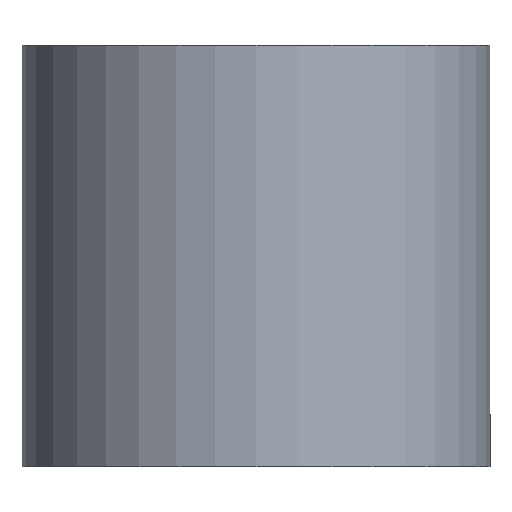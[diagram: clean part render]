
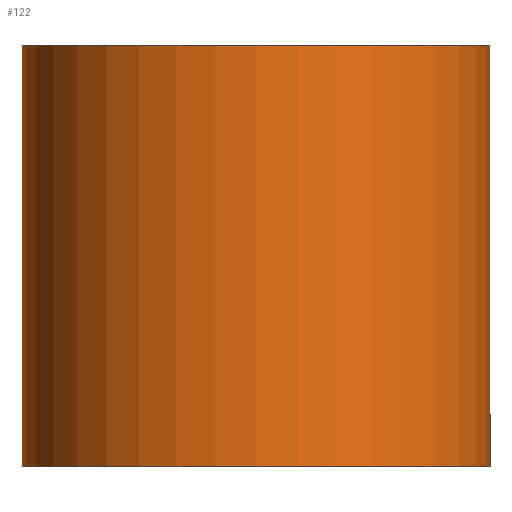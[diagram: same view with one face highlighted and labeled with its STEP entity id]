
A CAD part, front view. The second image highlights one B-rep face of the part: STEP entity #122.
In plain terms, the highlighted cylindrical face has radius 10 mm (diameter 20 mm), a full revolution.
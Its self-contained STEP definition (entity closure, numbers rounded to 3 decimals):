
#28=LINE('',#261,#32);
#32=VECTOR('',#221,10.);
#36=CYLINDRICAL_SURFACE('',#188,10.);
#46=FACE_OUTER_BOUND('',#56,.T.);
#56=EDGE_LOOP('',(#99,#100,#101,#102));
#63=CIRCLE('',#182,10.);
#66=CIRCLE('',#187,10.);
#71=VERTEX_POINT('',#249);
#74=VERTEX_POINT('',#258);
#79=EDGE_CURVE('',#71,#71,#63,.T.);
#83=EDGE_CURVE('',#74,#74,#66,.T.);
#84=EDGE_CURVE('',#71,#74,#28,.T.);
#99=ORIENTED_EDGE('',*,*,#79,.F.);
#100=ORIENTED_EDGE('',*,*,#84,.T.);
#101=ORIENTED_EDGE('',*,*,#83,.T.);
#102=ORIENTED_EDGE('',*,*,#84,.F.);
#122=ADVANCED_FACE('',(#46),#36,.T.);
#182=AXIS2_PLACEMENT_3D('',#250,#206,#207);
#187=AXIS2_PLACEMENT_3D('',#259,#217,#218);
#188=AXIS2_PLACEMENT_3D('',#260,#219,#220);
#206=DIRECTION('center_axis',(0.,0.,-1.));
#207=DIRECTION('ref_axis',(1.,0.,0.));
#217=DIRECTION('center_axis',(0.,0.,-1.));
#218=DIRECTION('ref_axis',(1.,0.,0.));
#219=DIRECTION('center_axis',(0.,0.,-1.));
#220=DIRECTION('ref_axis',(0.,1.,0.));
#221=DIRECTION('',(0.,0.,1.));
#249=CARTESIAN_POINT('',(0.,-10.,0.));
#250=CARTESIAN_POINT('Origin',(0.,0.,0.));
#258=CARTESIAN_POINT('',(0.,-10.,18.));
#259=CARTESIAN_POINT('Origin',(0.,0.,18.));
#260=CARTESIAN_POINT('Origin',(0.,0.,9.));
#261=CARTESIAN_POINT('',(0.,-10.,9.));
